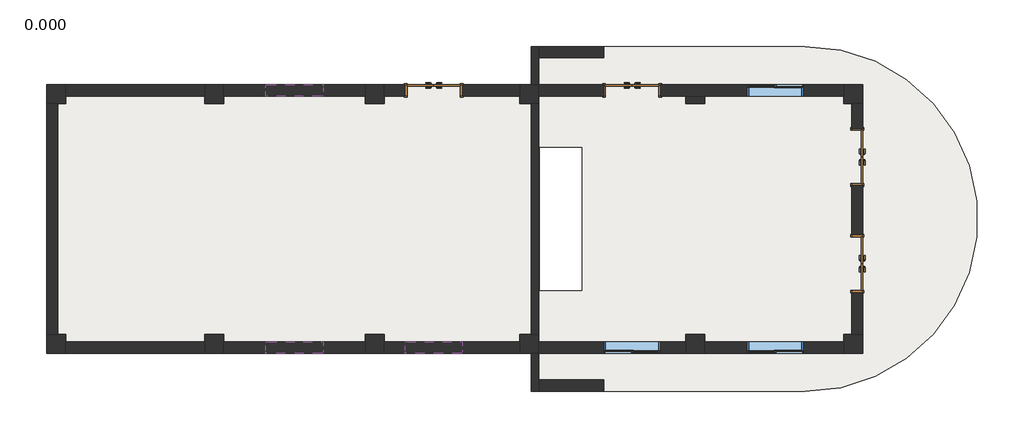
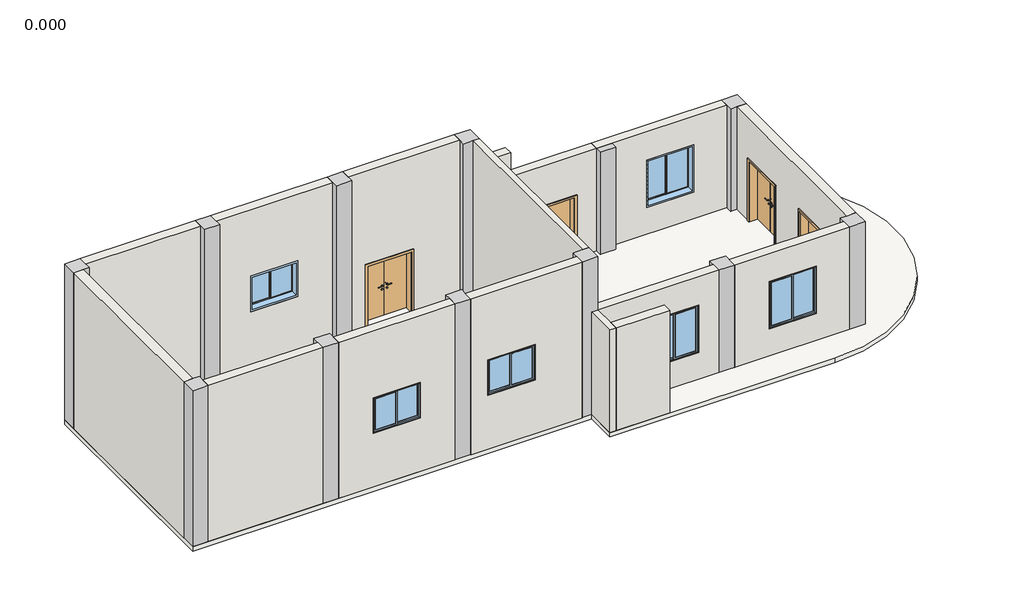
# One storey: 12 columns, 9 walls, 6 windows, 4 doors, 1 slab.
"""IFC4 building model written with IfcOpenShell, lengths in millimetres."""

from ifc_helpers import new_model, si_unit, frame, origin, origin_with_axes, place, context, project, spatial, polyline, circle_curve, outline, extrude, faceted_brep, transform, mapped, element, save
from ifc_brep_helpers import plane_surface, cylinder_surface, advanced_brep
from components import m1521_3751524f, c1512_d7736c0f, c1512_3f388d70, c1516_b00368ec, c1516_23733c97

model = new_model("IFC4")

# Units and contexts
model_context = context("Model", 3, world=origin())
ifc_project = project(units=[si_unit("LENGTHUNIT", "METRE", prefix="MILLI")], contexts=[model_context])

# Site, building, storey
site = spatial("IfcSite", under=ifc_project)
building = spatial("IfcBuilding", under=site)
storey = spatial("IfcBuildingStorey", under=building, Name="0.000", Elevation=0.0)

# Columns
placement = place(None, origin())
element("IfcColumn", 1, ObjectType="混凝土 - 正方形 - 柱 : 300 x 300mm", at=placement, inside=storey, context=model_context, shape_type="Brep", body=[
    faceted_brep([(-48725.7378629, -33580.7017086, 0.0), (-48725.7378629, -33880.7017086, 0.0), (-48725.7378629, -34080.7017086, 0.0), (-48925.7378629, -34080.7017086, 0.0), (-49225.7378629, -34080.7017086, 0.0), (-49225.7378629, -33580.7017086, 0.0), (-48725.7378629, -33580.7017086, 5250.0), (-48725.7378629, -33880.7017086, 5250.0), (-48725.7378629, -34080.7017086, 5250.0), (-48925.7378629, -34080.7017086, 5250.0), (-49225.7378629, -34080.7017086, 5250.0), (-49225.7378629, -33580.7017086, 5250.0)], [[[0, 1, 2, 3, 4, 5]], [[6, 7, 8, 2, 1, 0]], [[8, 9, 10, 4, 3, 2]], [[10, 11, 5, 4]], [[11, 6, 0, 5]], [[6, 11, 10, 9, 8, 7]]]),
])
element("IfcColumn", 2, ObjectType="混凝土 - 正方形 - 柱 : 300 x 300mm", at=placement, inside=storey, context=model_context, shape_type="Brep", body=[
    faceted_brep([(-48725.7378629, -40130.7017086, 0.0), (-48725.7378629, -40330.7017086, 0.0), (-48725.7378629, -40630.7017086, 0.0), (-49225.7378629, -40630.7017086, 0.0), (-49225.7378629, -40130.7017086, 0.0), (-48925.7378629, -40130.7017086, 0.0), (-48725.7378629, -40130.7017086, 5250.0), (-48725.7378629, -40330.7017086, 5250.0), (-48725.7378629, -40630.7017086, 5250.0), (-49225.7378629, -40630.7017086, 5250.0), (-49225.7378629, -40130.7017086, 5250.0), (-48925.7378629, -40130.7017086, 5250.0)], [[[0, 1, 2, 3, 4, 5]], [[6, 7, 8, 2, 1, 0]], [[8, 9, 3, 2]], [[9, 10, 4, 3]], [[10, 11, 6, 0, 5, 4]], [[6, 11, 10, 9, 8, 7]]]),
])
element("IfcColumn", 3, ObjectType="混凝土 - 正方形 - 柱 : 300 x 300mm", at=placement, inside=storey, context=model_context, shape_type="Brep", body=[
    faceted_brep([(-44575.7378629, -33580.7017086, 0.0), (-44575.7378629, -33880.7017086, 0.0), (-44575.7378629, -34080.7017086, 0.0), (-45075.7378629, -34080.7017086, 0.0), (-45075.7378629, -33880.7017086, 0.0), (-45075.7378629, -33580.7017086, 0.0), (-44575.7378629, -33580.7017086, 5250.0), (-44575.7378629, -33880.7017086, 5250.0), (-44575.7378629, -34080.7017086, 5250.0), (-45075.7378629, -34080.7017086, 5250.0), (-45075.7378629, -33880.7017086, 5250.0), (-45075.7378629, -33580.7017086, 5250.0)], [[[0, 1, 2, 3, 4, 5]], [[6, 7, 8, 2, 1, 0]], [[8, 9, 3, 2]], [[9, 10, 11, 5, 4, 3]], [[11, 6, 0, 5]], [[6, 11, 10, 9, 8, 7]]]),
])
element("IfcColumn", 4, ObjectType="混凝土 - 正方形 - 柱 : 300 x 300mm", at=placement, inside=storey, context=model_context, shape_type="Brep", body=[
    faceted_brep([(-44575.7378629, -40130.7017086, 0.0), (-44575.7378629, -40330.7017086, 0.0), (-44575.7378629, -40630.7017086, 0.0), (-45075.7378629, -40630.7017086, 0.0), (-45075.7378629, -40330.7017086, 0.0), (-45075.7378629, -40130.7017086, 0.0), (-44575.7378629, -40130.7017086, 5250.0), (-44575.7378629, -40330.7017086, 5250.0), (-44575.7378629, -40630.7017086, 5250.0), (-45075.7378629, -40630.7017086, 5250.0), (-45075.7378629, -40330.7017086, 5250.0), (-45075.7378629, -40130.7017086, 5250.0)], [[[0, 1, 2, 3, 4, 5]], [[6, 7, 8, 2, 1, 0]], [[8, 9, 3, 2]], [[9, 10, 11, 5, 4, 3]], [[11, 6, 0, 5]], [[6, 11, 10, 9, 8, 7]]]),
])
element("IfcColumn", 5, ObjectType="混凝土 - 正方形 - 柱 : 300 x 300mm", at=placement, inside=storey, context=model_context, shape_type="Brep", body=[
    faceted_brep([(-40375.7378629, -33580.7017086, 0.0), (-40375.7378629, -33880.7017086, 0.0), (-40375.7378629, -34080.7017086, 0.0), (-40875.7378629, -34080.7017086, 0.0), (-40875.7378629, -33880.7017086, 0.0), (-40875.7378629, -33580.7017086, 0.0), (-40375.7378629, -33580.7017086, 5250.0), (-40375.7378629, -33880.7017086, 5250.0), (-40375.7378629, -34080.7017086, 5250.0), (-40875.7378629, -34080.7017086, 5250.0), (-40875.7378629, -33880.7017086, 5250.0), (-40875.7378629, -33580.7017086, 5250.0)], [[[0, 1, 2, 3, 4, 5]], [[6, 7, 8, 2, 1, 0]], [[8, 9, 3, 2]], [[9, 10, 11, 5, 4, 3]], [[11, 6, 0, 5]], [[6, 11, 10, 9, 8, 7]]]),
])
element("IfcColumn", 6, ObjectType="混凝土 - 正方形 - 柱 : 300 x 300mm", at=placement, inside=storey, context=model_context, shape_type="Brep", body=[
    faceted_brep([(-40375.7378629, -40130.7017086, 0.0), (-40375.7378629, -40330.7017086, 0.0), (-40375.7378629, -40630.7017086, 0.0), (-40875.7378629, -40630.7017086, 0.0), (-40875.7378629, -40330.7017086, 0.0), (-40875.7378629, -40130.7017086, 0.0), (-40375.7378629, -40130.7017086, 5250.0), (-40375.7378629, -40330.7017086, 5250.0), (-40375.7378629, -40630.7017086, 5250.0), (-40875.7378629, -40630.7017086, 5250.0), (-40875.7378629, -40330.7017086, 5250.0), (-40875.7378629, -40130.7017086, 5250.0)], [[[0, 1, 2, 3, 4, 5]], [[6, 7, 8, 2, 1, 0]], [[8, 9, 3, 2]], [[9, 10, 11, 5, 4, 3]], [[11, 6, 0, 5]], [[6, 11, 10, 9, 8, 7]]]),
])
element("IfcColumn", 7, ObjectType="混凝土 - 正方形 - 柱 : 300 x 300mm", at=placement, inside=storey, context=model_context, shape_type="Brep", body=[
    faceted_brep([(-36325.7378629, -33580.7017086, 0.0), (-36325.7378629, -33880.7017086, 0.0), (-36325.7378629, -34080.7017086, 0.0), (-36525.7378629, -34080.7017086, 0.0), (-36825.7378629, -34080.7017086, 0.0), (-36825.7378629, -33880.7017086, 0.0), (-36825.7378629, -33580.7017086, 0.0), (-36325.7378629, -33580.7017086, 5250.0), (-36325.7378629, -34080.7017086, 5250.0), (-36325.7378629, -33580.7017086, 3450.0), (-36525.7378629, -34080.7017086, 5250.0), (-36825.7378629, -34080.7017086, 5250.0), (-36825.7378629, -33880.7017086, 5250.0), (-36825.7378629, -33580.7017086, 5250.0)], [[[0, 1, 2, 3, 4, 5, 6]], [[7, 8, 2, 1, 0, 9]], [[8, 10, 11, 4, 3, 2]], [[11, 12, 13, 6, 5, 4]], [[13, 7, 9, 0, 6]], [[7, 13, 12, 11, 10, 8]]]),
])
element("IfcColumn", 8, ObjectType="混凝土 - 正方形 - 柱 : 300 x 300mm", at=placement, inside=storey, context=model_context, shape_type="Brep", body=[
    faceted_brep([(-36325.7378629, -40130.7017086, 0.0), (-36325.7378629, -40330.7017086, 0.0), (-36325.7378629, -40630.7017086, 0.0), (-36825.7378629, -40630.7017086, 0.0), (-36825.7378629, -40330.7017086, 0.0), (-36825.7378629, -40130.7017086, 0.0), (-36525.7378629, -40130.7017086, 0.0), (-36325.7378629, -40130.7017086, 5250.0), (-36325.7378629, -40630.7017086, 5250.0), (-36325.7378629, -40630.7017086, 3450.0), (-36825.7378629, -40630.7017086, 5250.0), (-36825.7378629, -40330.7017086, 5250.0), (-36825.7378629, -40130.7017086, 5250.0), (-36525.7378629, -40130.7017086, 5250.0)], [[[0, 1, 2, 3, 4, 5, 6]], [[7, 8, 9, 2, 1, 0]], [[8, 10, 3, 2, 9]], [[10, 11, 12, 5, 4, 3]], [[12, 13, 7, 0, 6, 5]], [[7, 13, 12, 11, 10, 8]]]),
])
element("IfcColumn", 9, ObjectType="混凝土 - 正方形 - 柱 : 300 x 300mm", at=placement, inside=storey, context=model_context, shape_type="SweptSolid", body=[
    extrude(outline(polyline([(-31975.7378629, -33580.7017086), (-31975.7378629, -34080.7017086), (-32475.7378629, -34080.7017086), (-32475.7378629, -33580.7017086), (-31975.7378629, -33580.7017086)])), origin_with_axes(), (0.0, 0.0, 1.0), 3450.0),
])
element("IfcColumn", 10, ObjectType="混凝土 - 正方形 - 柱 : 300 x 300mm", at=placement, inside=storey, context=model_context, shape_type="Brep", body=[
    faceted_brep([(-31975.7378629, -40130.7017086, 0.0), (-31975.7378629, -40330.7017086, 0.0), (-31975.7378629, -40630.7017086, 0.0), (-32475.7378629, -40630.7017086, 0.0), (-32475.7378629, -40330.7017086, 0.0), (-32475.7378629, -40130.7017086, 0.0), (-31975.7378629, -40130.7017086, 3450.0), (-31975.7378629, -40330.7017086, 3450.0), (-31975.7378629, -40630.7017086, 3450.0), (-32475.7378629, -40630.7017086, 3450.0), (-32475.7378629, -40330.7017086, 3450.0), (-32475.7378629, -40130.7017086, 3450.0)], [[[0, 1, 2, 3, 4, 5]], [[6, 7, 8, 2, 1, 0]], [[8, 9, 3, 2]], [[9, 10, 11, 5, 4, 3]], [[11, 6, 0, 5]], [[6, 11, 10, 9, 8, 7]]]),
])
element("IfcColumn", 11, ObjectType="混凝土 - 正方形 - 柱 : 300 x 300mm", at=placement, inside=storey, context=model_context, shape_type="Brep", body=[
    faceted_brep([(-27825.7378629, -33580.7017086, 0.0), (-27825.7378629, -34080.7017086, 0.0), (-28125.7378629, -34080.7017086, 0.0), (-28325.7378629, -34080.7017086, 0.0), (-28325.7378629, -33880.7017086, 0.0), (-28325.7378629, -33580.7017086, 0.0), (-27825.7378629, -33580.7017086, 3450.0), (-27825.7378629, -34080.7017086, 3450.0), (-28125.7378629, -34080.7017086, 3450.0), (-28325.7378629, -34080.7017086, 3450.0), (-28325.7378629, -33880.7017086, 3450.0), (-28325.7378629, -33580.7017086, 3450.0)], [[[0, 1, 2, 3, 4, 5]], [[6, 7, 1, 0]], [[7, 8, 9, 3, 2, 1]], [[9, 10, 11, 5, 4, 3]], [[11, 6, 0, 5]], [[6, 11, 10, 9, 8, 7]]]),
])
element("IfcColumn", 12, ObjectType="混凝土 - 正方形 - 柱 : 300 x 300mm", at=placement, inside=storey, context=model_context, shape_type="Brep", body=[
    faceted_brep([(-27825.7378629, -40130.7017086, 0.0), (-27825.7378629, -40630.7017086, 0.0), (-28325.7378629, -40630.7017086, 0.0), (-28325.7378629, -40330.7017086, 0.0), (-28325.7378629, -40130.7017086, 0.0), (-28125.7378629, -40130.7017086, 0.0), (-27825.7378629, -40130.7017086, 3450.0), (-27825.7378629, -40630.7017086, 3450.0), (-28325.7378629, -40630.7017086, 3450.0), (-28325.7378629, -40330.7017086, 3450.0), (-28325.7378629, -40130.7017086, 3450.0), (-28125.7378629, -40130.7017086, 3450.0)], [[[0, 1, 2, 3, 4, 5]], [[6, 7, 1, 0]], [[7, 8, 2, 1]], [[8, 9, 10, 4, 3, 2]], [[10, 11, 6, 0, 5, 4]], [[6, 11, 10, 9, 8, 7]]]),
])

# Doors
m1521_shape = m1521_3751524f(model_context)
element("IfcDoor", 13, ObjectType="双面嵌板木门 1 : M1521", at=placement, inside=storey, context=model_context, shape_type="MappedRepresentation", body=[
    mapped(m1521_shape, transform((-39075.7378629, -33730.7017086, 0.0), x_axis=(1.0, 0.0, 0.0), y_axis=(0.0, 1.0, 0.0), z_axis=(0.0, 0.0, 1.0))),
])
element("IfcDoor", 14, ObjectType="双面嵌板木门 1 : M1521", at=placement, inside=storey, context=model_context, shape_type="MappedRepresentation", body=[
    mapped(m1521_shape, transform((-33875.7378629, -33730.7017086, 0.0), x_axis=(1.0, 0.0, 0.0), y_axis=(0.0, 1.0, 0.0), z_axis=(0.0, 0.0, 1.0))),
])
element("IfcDoor", 15, ObjectType="双面嵌板木门 1 : M1521", at=placement, inside=storey, context=model_context, shape_type="MappedRepresentation", body=[
    mapped(m1521_shape, transform((-27975.7378629, -35480.7017086, 0.0), x_axis=(0.0, -1.0, 0.0), y_axis=(1.0, 0.0, 0.0), z_axis=(0.0, 0.0, 1.0))),
])
element("IfcDoor", 16, ObjectType="双面嵌板木门 1 : M1521", at=placement, inside=storey, context=model_context, shape_type="MappedRepresentation", body=[
    mapped(m1521_shape, transform((-27975.7378629, -38280.7017086, 0.0), x_axis=(0.0, -1.0, 0.0), y_axis=(1.0, 0.0, 0.0), z_axis=(0.0, 0.0, 1.0))),
])

# Slab
element("IfcSlab", 17, ObjectType="常规 - 150mm", at=placement, inside=storey, context=model_context, shape_type="AdvancedBrep", body=[
    advanced_brep(
    [(-49225.7378629, -33580.7017086, -150.0), (-49225.7378629, -33580.7017086, 0.0), (-36525.7378629, -33580.7017086, 0.0), (-36525.7378629, -33580.7017086, -150.0), (-41825.7378629, -33580.7017086, -150.0), (-42225.7378629, -33580.7017086, -150.0), (-36525.7378629, -32580.7017086, 0.0), (-36525.7378629, -32580.7017086, -150.0), (-29350.7378629, -32580.7017086, 0.0), (-29350.7378629, -32580.7017086, -150.0), (-29350.7378629, -41630.7017086, 0.0), (-29350.7378629, -41630.7017086, -150.0), (-36525.7378629, -41630.7017086, 0.0), (-36525.7378629, -41630.7017086, -150.0), (-36525.7378629, -40630.7017086, 0.0), (-36525.7378629, -40630.7017086, -150.0), (-49225.7378629, -40630.7017086, 0.0), (-49225.7378629, -40630.7017086, -150.0), (-42225.7378629, -40630.7017086, -150.0), (-41825.7378629, -40630.7017086, -150.0), (-35200.7378629, -35230.7017086, -150.0), (-35200.7378629, -35230.7017086, 0.0), (-36300.7378629, -35230.7017086, 0.0), (-36300.7378629, -35230.7017086, -150.0), (-36300.7378629, -38980.7017086, 0.0), (-36300.7378629, -38980.7017086, -150.0), (-35200.7378629, -38980.7017086, 0.0), (-35200.7378629, -38980.7017086, -150.0)],
    [
        (0, 1),
        (1, 2),
        (2, 3),
        (3, 4),
        (4, 5),
        (5, 0),
        (2, 6),
        (6, 7),
        (7, 3),
        (6, 8),
        (8, 9),
        (9, 7),
        (8, 10, circle_curve(frame((-29350.7378629, -37105.7017086, 0.0), z_axis=(0.0, 0.0, -1.0), x_axis=(1.0, 0.0, 0.0)), 4525.0)),
        (10, 11),
        (11, 9, circle_curve(frame((-29350.7378629, -37105.7017086, -150.0), z_axis=(0.0, 0.0, 1.0), x_axis=(1.0, 0.0, 0.0)), 4525.0)),
        (10, 12),
        (12, 13),
        (13, 11),
        (12, 14),
        (14, 15),
        (15, 13),
        (14, 16),
        (16, 17),
        (17, 18),
        (18, 19),
        (19, 15),
        (16, 1),
        (0, 17),
        (20, 21),
        (21, 22),
        (22, 23),
        (23, 20),
        (22, 24),
        (24, 25),
        (25, 23),
        (24, 26),
        (26, 27),
        (27, 25),
        (26, 21),
        (20, 27),
    ],
    [
        plane_surface(frame((-49225.7378629, -33580.7017086, -150.0), z_axis=(0.0, 1.0, 0.0), x_axis=(0.0, 0.0, 1.0))),
        plane_surface(frame((-36525.7378629, -33580.7017086, -150.0), z_axis=(-1.0, 0.0, 0.0), x_axis=(0.0, 0.0, 1.0))),
        plane_surface(frame((-36525.7378629, -32580.7017086, -150.0), z_axis=(0.0, 1.0, 0.0), x_axis=(0.0, 0.0, 1.0))),
        cylinder_surface(frame((-29350.7378629, -37105.7017086, 0.0), z_axis=(0.0, 0.0, -1.0), x_axis=(1.0, 0.0, 0.0)), 4525.0),
        plane_surface(frame((-29350.7378629, -41630.7017086, -150.0), z_axis=(0.0, -1.0, 0.0), x_axis=(0.0, 0.0, 1.0))),
        plane_surface(frame((-36525.7378629, -41630.7017086, -150.0), z_axis=(-1.0, 0.0, 0.0), x_axis=(0.0, 0.0, 1.0))),
        plane_surface(frame((-36525.7378629, -40630.7017086, -150.0), z_axis=(0.0, -1.0, 0.0), x_axis=(0.0, 0.0, 1.0))),
        plane_surface(frame((-49225.7378629, -40630.7017086, -150.0), z_axis=(-1.0, 0.0, 0.0), x_axis=(0.0, 0.0, 1.0))),
        plane_surface(frame((-35200.7378629, -35230.7017086, -150.0), z_axis=(0.0, -1.0, 0.0), x_axis=(0.0, 0.0, 1.0))),
        plane_surface(frame((-36300.7378629, -35230.7017086, -150.0), z_axis=(1.0, 0.0, 0.0), x_axis=(0.0, 0.0, 1.0))),
        plane_surface(frame((-36300.7378629, -38980.7017086, -150.0), z_axis=(0.0, 1.0, 0.0), x_axis=(0.0, 0.0, 1.0))),
        plane_surface(frame((-35200.7378629, -38980.7017086, -150.0), z_axis=(-1.0, 0.0, 0.0), x_axis=(0.0, 0.0, 1.0))),
        plane_surface(frame((-37906.9878629, -37105.7017086, 0.0), z_axis=(0.0, 0.0, 1.0), x_axis=(1.0, 0.0, 0.0))),
        plane_surface(frame((-37906.9878629, -37105.7017086, -150.0), z_axis=(0.0, 0.0, -1.0), x_axis=(1.0, 0.0, 0.0))),
    ],
    [
        (0, [[1, 2, 3, 4, 5, 6]]),
        (1, [[-3, 7, 8, 9]]),
        (2, [[-8, 10, 11, 12]]),
        (3, [[-11, 13, 14, 15]]),
        (4, [[-14, 16, 17, 18]]),
        (5, [[-17, 19, 20, 21]]),
        (6, [[-20, 22, 23, 24, 25, 26]]),
        (7, [[-23, 27, -1, 28]]),
        (8, [[29, 30, 31, 32]]),
        (9, [[-31, 33, 34, 35]]),
        (10, [[-34, 36, 37, 38]]),
        (11, [[-37, 39, -29, 40]]),
        (12, [[-22, -19, -16, -13, -10, -7, -2, -27], [-39, -36, -33, -30]]),
        (13, [[-28, -6, -5, -4, -9, -12, -15, -18, -21, -26, -25, -24], [-32, -35, -38, -40]]),
    ],
),
])

# Walls
element("IfcWall", 18, ObjectType="地上外墙", at=placement, inside=storey, context=model_context, shape_type="SweptSolid", body=[
    extrude(outline(polyline([(-49225.7378629, -34080.7017086), (-48925.7378629, -34080.7017086), (-48925.7378629, -40130.7017086), (-49225.7378629, -40130.7017086), (-49225.7378629, -34080.7017086)])), origin_with_axes(), (0.0, 0.0, 1.0), 5250.0),
])
element("IfcWall", 19, ObjectType="地上外墙", at=placement, inside=storey, context=model_context, shape_type="SweptSolid", body=[
    extrude(outline(polyline([(-48725.7378629, -33880.7017086), (-48725.7378629, -33580.7017086), (-45075.7378629, -33580.7017086), (-45075.7378629, -33880.7017086), (-48725.7378629, -33880.7017086)])), origin_with_axes(), (0.0, 0.0, 1.0), 5250.0),
    extrude(outline(polyline([(5250.0, -44575.7378629), (0.0, -44575.7378629), (0.0, -40875.7378629), (5250.0, -40875.7378629), (5250.0, -44575.7378629)]), holes=[polyline([(3000.0, -41975.7378629), (1800.0, -41975.7378629), (1800.0, -43475.7378629), (3000.0, -43475.7378629), (3000.0, -41975.7378629)])]), frame((0.0, -33880.7017086, 0.0), z_axis=(0.0, 1.0, 0.0), x_axis=(0.0, 0.0, 1.0)), (0.0, 0.0, 1.0), 300.0),
    extrude(outline(polyline([(5250.0, -40375.7378629), (0.0, -40375.7378629), (0.0, -39825.7378629), (2100.0, -39825.7378629), (2100.0, -38325.7378629), (0.0, -38325.7378629), (0.0, -36825.7378629), (5250.0, -36825.7378629), (5250.0, -40375.7378629)])), frame((0.0, -33880.7017086, 0.0), z_axis=(0.0, 1.0, 0.0), x_axis=(0.0, 0.0, 1.0)), (0.0, 0.0, 1.0), 300.0),
    extrude(outline(polyline([(0.0, -28325.7378629), (3450.0, -28325.7378629), (3450.0, -36325.7378629), (0.0, -36325.7378629), (0.0, -34625.7378629), (2100.0, -34625.7378629), (2100.0, -33125.7378629), (0.0, -33125.7378629), (0.0, -28325.7378629)]), holes=[polyline([(2500.0, -29375.7378629), (900.0, -29375.7378629), (900.0, -30875.7378629), (2500.0, -30875.7378629), (2500.0, -29375.7378629)])]), frame((0.0, -33880.7017086, 0.0), z_axis=(0.0, 1.0, 0.0), x_axis=(0.0, 0.0, 1.0)), (0.0, 0.0, 1.0), 300.0),
])
element("IfcWall", 20, ObjectType="地上外墙", at=placement, inside=storey, context=model_context, shape_type="SweptSolid", body=[
    extrude(outline(polyline([(-34080.7017086, 3450.0), (-34080.7017086, 0.0), (-34730.7017086, 0.0), (-34730.7017086, 2100.0), (-36230.7017086, 2100.0), (-36230.7017086, 0.0), (-37530.7017086, 0.0), (-37530.7017086, 2100.0), (-39030.7017086, 2100.0), (-39030.7017086, 0.0), (-40130.7017086, 0.0), (-40130.7017086, 3450.0), (-34080.7017086, 3450.0)])), frame((-28125.7378629, 0.0, 0.0), z_axis=(1.0, 0.0, 0.0), x_axis=(0.0, 1.0, 0.0)), (0.0, 0.0, 1.0), 300.0),
])
element("IfcWall", 21, ObjectType="地上外墙", at=placement, inside=storey, context=model_context, shape_type="SweptSolid", body=[
    extrude(outline(polyline([(0.0, -28325.7378629), (3450.0, -28325.7378629), (3450.0, -31975.7378629), (0.0, -31975.7378629), (0.0, -28325.7378629)]), holes=[polyline([(2500.0, -29375.7378629), (900.0, -29375.7378629), (900.0, -30875.7378629), (2500.0, -30875.7378629), (2500.0, -29375.7378629)])]), frame((0.0, -40630.7017086, 0.0), z_axis=(0.0, 1.0, 0.0), x_axis=(0.0, 0.0, 1.0)), (0.0, 0.0, 1.0), 300.0),
    extrude(outline(polyline([(0.0, -32475.7378629), (3450.0, -32475.7378629), (3450.0, -36325.7378629), (0.0, -36325.7378629), (0.0, -32475.7378629)]), holes=[polyline([(900.0, -34625.7378629), (2500.0, -34625.7378629), (2500.0, -33125.7378629), (900.0, -33125.7378629), (900.0, -34625.7378629)])]), frame((0.0, -40630.7017086, 0.0), z_axis=(0.0, 1.0, 0.0), x_axis=(0.0, 0.0, 1.0)), (0.0, 0.0, 1.0), 300.0),
    extrude(outline(polyline([(0.0, -36825.7378629), (5250.0, -36825.7378629), (5250.0, -40375.7378629), (0.0, -40375.7378629), (0.0, -36825.7378629)]), holes=[polyline([(1800.0, -39825.7378629), (3000.0, -39825.7378629), (3000.0, -38325.7378629), (1800.0, -38325.7378629), (1800.0, -39825.7378629)])]), frame((0.0, -40630.7017086, 0.0), z_axis=(0.0, 1.0, 0.0), x_axis=(0.0, 0.0, 1.0)), (0.0, 0.0, 1.0), 300.0),
    extrude(outline(polyline([(0.0, -40875.7378629), (5250.0, -40875.7378629), (5250.0, -44575.7378629), (0.0, -44575.7378629), (0.0, -40875.7378629)]), holes=[polyline([(3000.0, -41975.7378629), (1800.0, -41975.7378629), (1800.0, -43475.7378629), (3000.0, -43475.7378629), (3000.0, -41975.7378629)])]), frame((0.0, -40630.7017086, 0.0), z_axis=(0.0, 1.0, 0.0), x_axis=(0.0, 0.0, 1.0)), (0.0, 0.0, 1.0), 300.0),
    extrude(outline(polyline([(-45075.7378629, -40330.7017086), (-45075.7378629, -40630.7017086), (-48725.7378629, -40630.7017086), (-48725.7378629, -40330.7017086), (-45075.7378629, -40330.7017086)])), origin_with_axes(), (0.0, 0.0, 1.0), 5250.0),
])
element("IfcWall", 22, ObjectType="地上内墙", at=placement, inside=storey, context=model_context, shape_type="SweptSolid", body=[
    extrude(outline(polyline([(-36525.7378629, -34080.7017086), (-36325.7378629, -34080.7017086), (-36325.7378629, -40130.7017086), (-36525.7378629, -40130.7017086), (-36525.7378629, -34080.7017086)])), origin_with_axes(), (0.0, 0.0, 1.0), 5250.0),
])
element("IfcWall", 23, ObjectType="地上内墙", at=placement, inside=storey, context=model_context, shape_type="Brep", body=[
    faceted_brep([(-36325.7378629, -33580.7017086, 0.0), (-36325.7378629, -32880.7017086, 0.0), (-36325.7378629, -32580.7017086, 0.0), (-36325.7378629, -32580.7017086, 3450.0), (-36325.7378629, -32880.7017086, 3450.0), (-36325.7378629, -33580.7017086, 3450.0), (-36525.7378629, -33580.7017086, 0.0), (-36525.7378629, -33580.7017086, 3450.0), (-36525.7378629, -32580.7017086, 3450.0), (-36525.7378629, -32580.7017086, 0.0)], [[[0, 1, 2, 3, 4, 5]], [[6, 7, 8, 9]], [[2, 1, 0, 6, 9]], [[0, 5, 7, 6]], [[3, 2, 9, 8]], [[5, 4, 3, 8, 7]]]),
])
element("IfcWall", 24, ObjectType="地上外墙", at=placement, inside=storey, context=model_context, shape_type="SweptSolid", body=[
    extrude(outline(polyline([(-34625.7378629, -32880.7017086), (-36325.7378629, -32880.7017086), (-36325.7378629, -32580.7017086), (-34625.7378629, -32580.7017086), (-34625.7378629, -32880.7017086)])), origin_with_axes(), (0.0, 0.0, 1.0), 3450.0),
])
element("IfcWall", 25, ObjectType="地上内墙", at=placement, inside=storey, context=model_context, shape_type="Brep", body=[
    faceted_brep([(-36525.7378629, -40630.7017086, 0.0), (-36525.7378629, -41630.7017086, 0.0), (-36525.7378629, -41630.7017086, 3450.0), (-36525.7378629, -40630.7017086, 3450.0), (-36325.7378629, -40630.7017086, 0.0), (-36325.7378629, -40630.7017086, 3450.0), (-36325.7378629, -41330.7017086, 3450.0), (-36325.7378629, -41630.7017086, 3450.0), (-36325.7378629, -41630.7017086, 0.0), (-36325.7378629, -41330.7017086, 0.0)], [[[0, 1, 2, 3]], [[4, 5, 6, 7, 8, 9]], [[1, 0, 4, 9, 8]], [[2, 1, 8, 7]], [[0, 3, 5, 4]], [[3, 2, 7, 6, 5]]]),
])
element("IfcWall", 26, ObjectType="地上外墙", at=placement, inside=storey, context=model_context, shape_type="SweptSolid", body=[
    extrude(outline(polyline([(-34625.7378629, -41630.7017086), (-36325.7378629, -41630.7017086), (-36325.7378629, -41330.7017086), (-34625.7378629, -41330.7017086), (-34625.7378629, -41630.7017086)])), origin_with_axes(), (0.0, 0.0, 1.0), 3450.0),
])

# Windows
c1512_shape = c1512_d7736c0f(model_context)
element("IfcWindow", 27, ObjectType="推拉窗6 : C1512", at=placement, inside=storey, context=model_context, shape_type="MappedRepresentation", body=[
    mapped(c1512_shape, transform((-42735.2628629, -33663.8282711, 0.0), x_axis=(1.0, 0.0, 0.0), y_axis=(0.0, 1.0, 0.0), z_axis=(0.0, 0.0, 1.0))),
])
element("IfcWindow", 28, ObjectType="推拉窗6 : C1512", at=placement, inside=storey, context=model_context, shape_type="MappedRepresentation", body=[
    mapped(c1512_shape, transform((-39066.2128629, -40547.5751461, 0.0), x_axis=(-1.0, 0.0, 0.0), y_axis=(0.0, -1.0, 0.0), z_axis=(0.0, 0.0, 1.0))),
])
c1512_2_shape = c1512_3f388d70(model_context)
element("IfcWindow", 29, ObjectType="推拉窗6 : C1512", at=placement, inside=storey, context=model_context, shape_type="MappedRepresentation", body=[
    mapped(c1512_2_shape, transform((-42735.2628629, -40547.5751461, 0.0), x_axis=(1.0, 0.0, 0.0), y_axis=(0.0, 1.0, 0.0), z_axis=(0.0, 0.0, 1.0))),
])
c1516_shape = c1516_b00368ec(model_context)
element("IfcWindow", 30, ObjectType="推拉窗6 : C1516", at=placement, inside=storey, context=model_context, shape_type="MappedRepresentation", body=[
    mapped(c1516_shape, transform((-30135.2628629, -33663.8282711, 0.0), x_axis=(1.0, 0.0, 0.0), y_axis=(0.0, 1.0, 0.0), z_axis=(0.0, 0.0, 1.0))),
])
element("IfcWindow", 31, ObjectType="推拉窗6 : C1516", at=placement, inside=storey, context=model_context, shape_type="MappedRepresentation", body=[
    mapped(c1516_shape, transform((-33866.2128629, -40547.5751461, 0.0), x_axis=(-1.0, 0.0, 0.0), y_axis=(0.0, -1.0, 0.0), z_axis=(0.0, 0.0, 1.0))),
])
c1516_2_shape = c1516_23733c97(model_context)
element("IfcWindow", 32, ObjectType="推拉窗6 : C1516", at=placement, inside=storey, context=model_context, shape_type="MappedRepresentation", body=[
    mapped(c1516_2_shape, transform((-30135.2628629, -40547.5751461, 0.0), x_axis=(1.0, 0.0, 0.0), y_axis=(0.0, 1.0, 0.0), z_axis=(0.0, 0.0, 1.0))),
])

save(model, "model.ifc")
